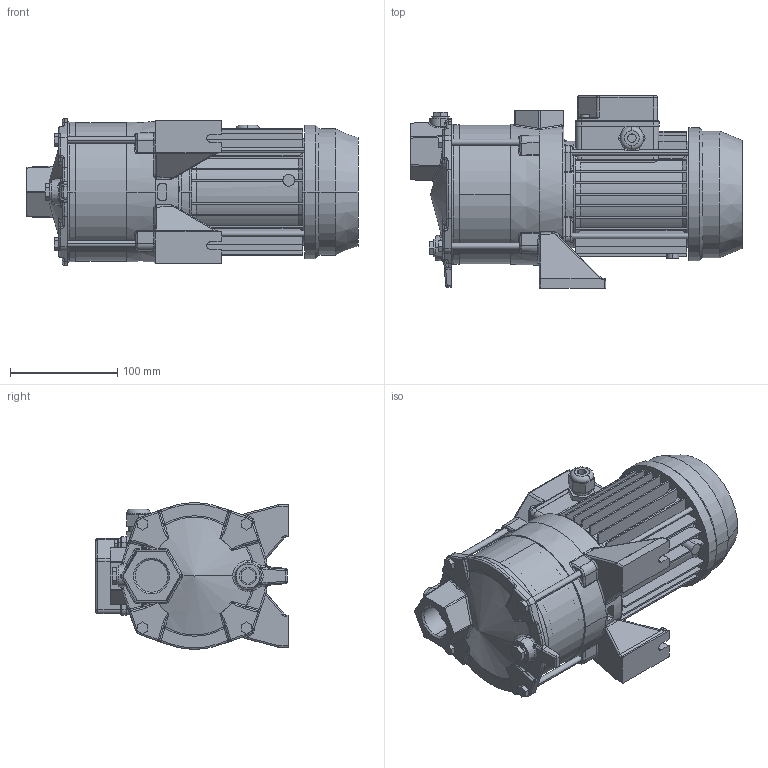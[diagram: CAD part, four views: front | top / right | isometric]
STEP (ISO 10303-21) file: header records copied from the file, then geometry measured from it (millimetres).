
FILE_DESCRIPTION((''),'2;1');
FILE_NAME('COMPACT_L_A_4_ASM','2019-10-07T',('rosa'),('"Ebara Pumps Europe +39.444.706811"'),'PRO/ENGINEER BY PARAMETRIC TECHNOLOGY CORPORATION, 2017170','PRO/ENGINEER BY PARAMETRIC TECHNOLOGY CORPORATION, 2017170','');
FILE_SCHEMA(('AUTOMOTIVE_DESIGN { 1 0 10303 214 1 1 1 1 }'));
Length unit declared in the file: millimetre
Products named in the file (6): MEC_63_TRIFASE_4_TIRANTI; 80600; 2710X_L-47; 20998; 40012_M6X85; COMPACT_L_A_4_ASM
Assembly tree (8 placements, depth 2):
  COMPACT_L_A_4_ASM
    MEC_63_TRIFASE_4_TIRANTI
    80600
    2710X_L-47
    20998
    40012_M6X85  x4
Bounding box: 309.5 x 179.5 x 137 mm (x, y, z)
Volume: 2129095.1 mm3; surface area: 365824 mm2
Topology: 8 solids, 8 shells, 1101 faces, 2588 edges, 1529 vertices
Faces by surface type: plane 365, cylinder 318, bspline 245, cone 71, torus 65, sphere 37
Entity records: 51567 total; most frequent: CARTESIAN_POINT 19751, ORIENTED_EDGE 5028, DIRECTION 4491, PRESENTATION_STYLE_ASSIGNMENT 2519, STYLED_ITEM 2519, CURVE_STYLE 2514, EDGE_CURVE 2514, AXIS2_PLACEMENT_3D 1766
